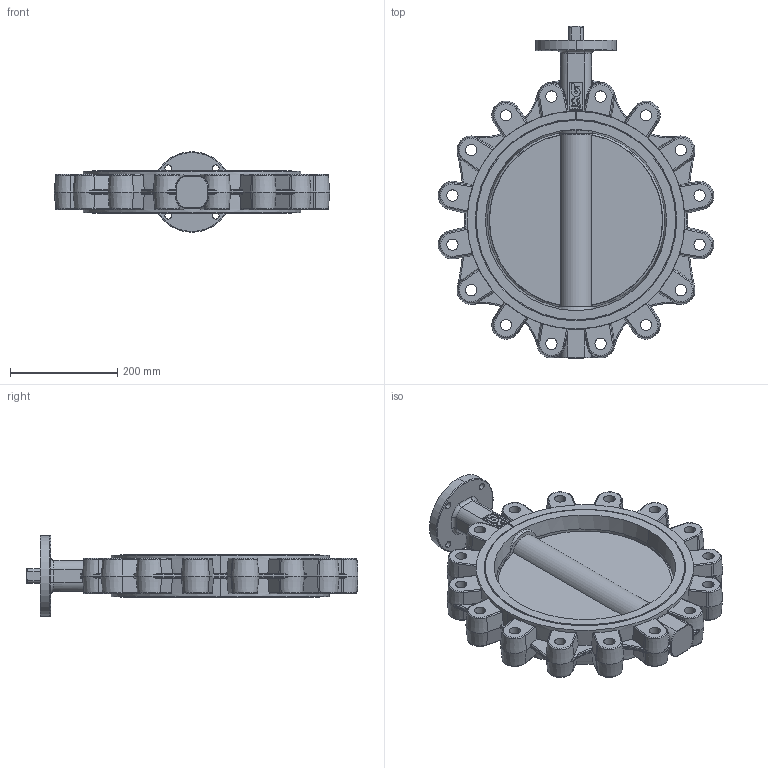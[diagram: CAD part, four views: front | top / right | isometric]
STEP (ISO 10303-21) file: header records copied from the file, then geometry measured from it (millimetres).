
FILE_DESCRIPTION (( 'STEP AP203' ), '1' );
FILE_NAME ('L9.DN350.STEP', '2020-01-29T08:55:24', ( '' ), ( '' ), 'SwSTEP 2.0', 'SolidWorks 2017', '' );
FILE_SCHEMA (( 'CONFIG_CONTROL_DESIGN' ));
Length unit declared in the file: millimetre
Products named in the file (1): L9.DN350
Bounding box: 513.96 x 619 x 150 mm (x, y, z)
Volume: 8570375.5 mm3; surface area: 766887.7 mm2
Topology: 1 solids, 1 shells, 925 faces, 2432 edges, 1537 vertices
Faces by surface type: plane 349, cylinder 180, bspline 149, cone 126, torus 113, sphere 8
Entity records: 38605 total; most frequent: CARTESIAN_POINT 17000, ORIENTED_EDGE 4844, DIRECTION 4051, EDGE_CURVE 2422, VERTEX_POINT 1537, AXIS2_PLACEMENT_3D 1513, VECTOR 1025, LINE 1025
